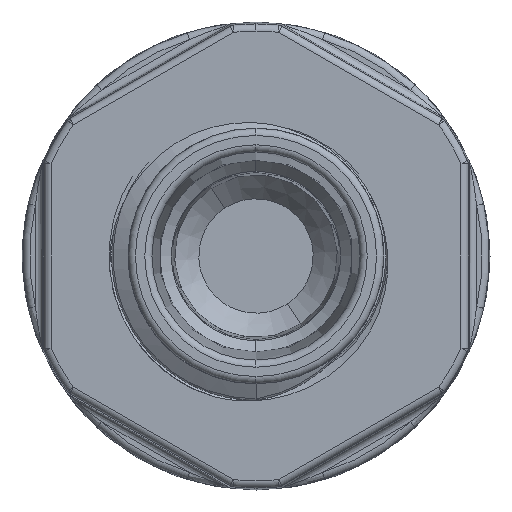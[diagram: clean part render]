
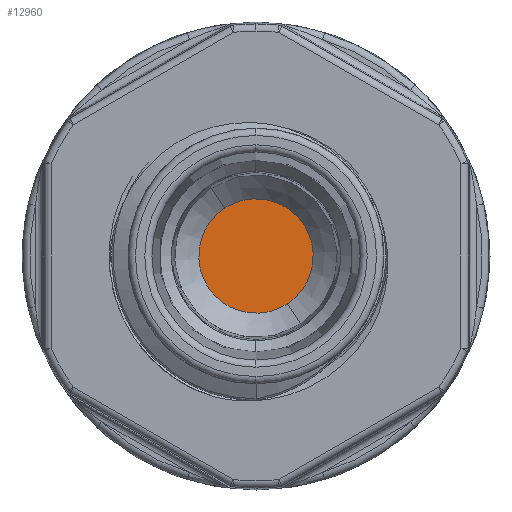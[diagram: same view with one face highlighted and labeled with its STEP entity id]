
A CAD part, front view. The second image highlights one B-rep face of the part: STEP entity #12960.
In plain terms, the highlighted planar face has unit normal (0, -1, 0).
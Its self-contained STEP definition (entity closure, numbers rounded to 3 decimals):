
#2649 = DIRECTION ( 'NONE',  ( 0., -1., 0. ) ) ;
#2948 = VERTEX_POINT ( 'NONE', #3903 ) ;
#3299 = AXIS2_PLACEMENT_3D ( 'NONE', #13212, #2649, #15345 ) ;
#3530 = EDGE_LOOP ( 'NONE', ( #9134, #26568 ) ) ;
#3903 = CARTESIAN_POINT ( 'NONE',  ( 0., 8.5, -2.383 ) ) ;
#4451 = DIRECTION ( 'NONE',  ( 0., -1., 0. ) ) ;
#9134 = ORIENTED_EDGE ( 'NONE', *, *, #19095, .T. ) ;
#9304 = AXIS2_PLACEMENT_3D ( 'NONE', #10501, #21310, #19028 ) ;
#10501 = CARTESIAN_POINT ( 'NONE',  ( 0., 8.5, 0. ) ) ;
#12568 = DIRECTION ( 'NONE',  ( 0., 0., -1. ) ) ;
#12845 = CIRCLE ( 'NONE', #3299, 2.383 ) ;
#12960 = ADVANCED_FACE ( 'NONE', ( #15202 ), #21457, .F. ) ;
#13212 = CARTESIAN_POINT ( 'NONE',  ( 0., 8.5, 0. ) ) ;
#15202 = FACE_OUTER_BOUND ( 'NONE', #3530, .T. ) ;
#15243 = CIRCLE ( 'NONE', #24314, 2.383 ) ;
#15345 = DIRECTION ( 'NONE',  ( 0., 0., -1. ) ) ;
#19028 = DIRECTION ( 'NONE',  ( 0., 0., 1. ) ) ;
#19095 = EDGE_CURVE ( 'NONE', #2948, #19832, #15243, .T. ) ;
#19530 = CARTESIAN_POINT ( 'NONE',  ( 0., 8.5, 0. ) ) ;
#19832 = VERTEX_POINT ( 'NONE', #23416 ) ;
#21310 = DIRECTION ( 'NONE',  ( 0., 1., 0. ) ) ;
#21457 = PLANE ( 'NONE',  #9304 ) ;
#23413 = EDGE_CURVE ( 'NONE', #19832, #2948, #12845, .T. ) ;
#23416 = CARTESIAN_POINT ( 'NONE',  ( 0., 8.5, 2.383 ) ) ;
#24314 = AXIS2_PLACEMENT_3D ( 'NONE', #19530, #4451, #12568 ) ;
#26568 = ORIENTED_EDGE ( 'NONE', *, *, #23413, .T. ) ;
